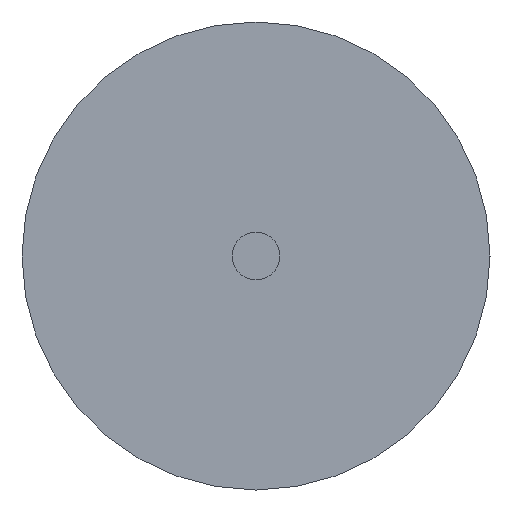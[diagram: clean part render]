
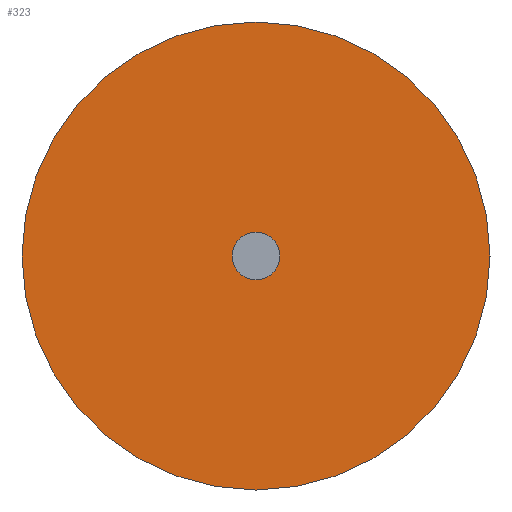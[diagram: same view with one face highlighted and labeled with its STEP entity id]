
A CAD part, left-side view. The second image highlights one B-rep face of the part: STEP entity #323.
In plain terms, the highlighted planar face has unit normal (-1, 0, 0).
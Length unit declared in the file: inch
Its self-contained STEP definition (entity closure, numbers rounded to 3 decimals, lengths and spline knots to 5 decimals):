
#2 = EDGE_CURVE ( 'NONE', #762, #768, #833, .T. ) ;
#15 = DIRECTION ( 'NONE',  ( 0., 0., -1. ) ) ;
#75 = DIRECTION ( 'NONE',  ( -1., 0., 0. ) ) ;
#101 = CARTESIAN_POINT ( 'NONE',  ( 0., 0., 0.06867 ) ) ;
#112 = PLANE ( 'NONE',  #337 ) ;
#123 = AXIS2_PLACEMENT_3D ( 'NONE', #308, #741, #1177 ) ;
#205 = ORIENTED_EDGE ( 'NONE', *, *, #846, .T. ) ;
#212 = ORIENTED_EDGE ( 'NONE', *, *, #1121, .T. ) ;
#218 = ORIENTED_EDGE ( 'NONE', *, *, #2, .F. ) ;
#223 = ORIENTED_EDGE ( 'NONE', *, *, #329, .F. ) ;
#278 = VERTEX_POINT ( 'NONE', #101 ) ;
#281 = CIRCLE ( 'NONE', #123, 0.06867 ) ;
#308 = CARTESIAN_POINT ( 'NONE',  ( 0., 0., 0. ) ) ;
#323 = ADVANCED_FACE ( 'NONE', ( #722, #1059 ), #112, .F. ) ;
#329 = EDGE_CURVE ( 'NONE', #768, #762, #444, .T. ) ;
#337 = AXIS2_PLACEMENT_3D ( 'NONE', #472, #950, #15 ) ;
#392 = CARTESIAN_POINT ( 'NONE',  ( 0., 0., 0. ) ) ;
#444 = CIRCLE ( 'NONE', #458, 0.007 ) ;
#446 = DIRECTION ( 'NONE',  ( 0., 0., 1. ) ) ;
#458 = AXIS2_PLACEMENT_3D ( 'NONE', #392, #856, #1256 ) ;
#472 = CARTESIAN_POINT ( 'NONE',  ( 0., 0., 0. ) ) ;
#564 = CARTESIAN_POINT ( 'NONE',  ( 0., 0., 0.007 ) ) ;
#634 = VERTEX_POINT ( 'NONE', #1130 ) ;
#662 = AXIS2_PLACEMENT_3D ( 'NONE', #1042, #1037, #980 ) ;
#722 = FACE_BOUND ( 'NONE', #1099, .T. ) ;
#741 = DIRECTION ( 'NONE',  ( -1., 0., 0. ) ) ;
#762 = VERTEX_POINT ( 'NONE', #1145 ) ;
#768 = VERTEX_POINT ( 'NONE', #564 ) ;
#791 = EDGE_LOOP ( 'NONE', ( #212, #205 ) ) ;
#833 = CIRCLE ( 'NONE', #662, 0.007 ) ;
#846 = EDGE_CURVE ( 'NONE', #634, #278, #281, .T. ) ;
#856 = DIRECTION ( 'NONE',  ( -1., 0., 0. ) ) ;
#900 = AXIS2_PLACEMENT_3D ( 'NONE', #1017, #75, #446 ) ;
#904 = CIRCLE ( 'NONE', #900, 0.06867 ) ;
#950 = DIRECTION ( 'NONE',  ( 1., 0., 0. ) ) ;
#980 = DIRECTION ( 'NONE',  ( 0., 0., 1. ) ) ;
#1017 = CARTESIAN_POINT ( 'NONE',  ( 0., 0., 0. ) ) ;
#1037 = DIRECTION ( 'NONE',  ( -1., 0., 0. ) ) ;
#1042 = CARTESIAN_POINT ( 'NONE',  ( 0., 0., 0. ) ) ;
#1059 = FACE_OUTER_BOUND ( 'NONE', #791, .T. ) ;
#1099 = EDGE_LOOP ( 'NONE', ( #223, #218 ) ) ;
#1121 = EDGE_CURVE ( 'NONE', #278, #634, #904, .T. ) ;
#1130 = CARTESIAN_POINT ( 'NONE',  ( 0., 0., -0.06867 ) ) ;
#1145 = CARTESIAN_POINT ( 'NONE',  ( 0., 0., -0.007 ) ) ;
#1177 = DIRECTION ( 'NONE',  ( 0., 0., 1. ) ) ;
#1256 = DIRECTION ( 'NONE',  ( 0., 0., 1. ) ) ;
